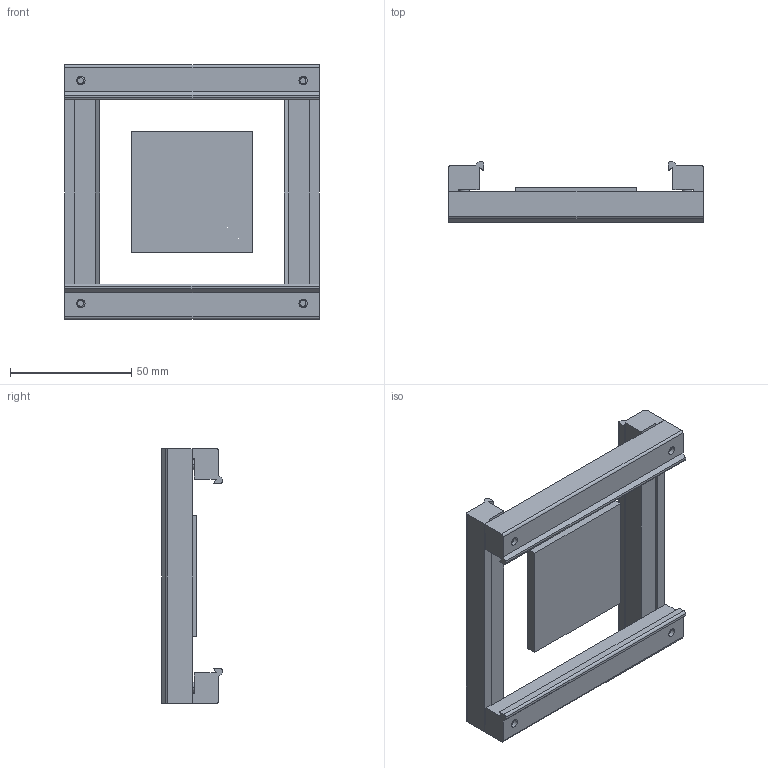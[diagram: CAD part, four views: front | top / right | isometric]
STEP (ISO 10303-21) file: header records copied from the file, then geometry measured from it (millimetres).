
FILE_DESCRIPTION (( 'STEP AP203' ), '1' );
FILE_NAME ('X-Y Verbindung dL80.STEP', '2004-11-26T15:51:09', ( '' ), ( '' ), 'SwSTEP 2.0', 'SolidWorks 2004073', '' );
FILE_SCHEMA (( 'CONFIG_CONTROL_DESIGN' ));
Length unit declared in the file: millimetre
Products named in the file (5): SC-912_M 4 x 16; X-Y Verbindung dL80; Klemmleiste-+-D001997_ _PDB_050633; Klemmleiste-+-D007748_ _PDB_50632; Bestimmplatte_dL_80-+-D019082_ _PDB_050648
Assembly tree (9 placements, depth 2):
  X-Y Verbindung dL80
    Klemmleiste-+-D001997_ _PDB_050633  x2
    Klemmleiste-+-D007748_ _PDB_50632  x2
    Bestimmplatte_dL_80-+-D019082_ _PDB_050648
    SC-912_M 4 x 16  x4
Bounding box: 105 x 25 x 105 mm (x, y, z)
Volume: 66792 mm3; surface area: 31998.1 mm2
Topology: 9 solids, 9 shells, 194 faces, 444 edges, 280 vertices
Faces by surface type: plane 122, cylinder 48, cone 16, torus 8
Entity records: 2809 total; most frequent: DIRECTION 394, CARTESIAN_POINT 372, ORIENTED_EDGE 348, EDGE_CURVE 174, AXIS2_PLACEMENT_3D 134, LINE 126, VECTOR 126, VERTEX_POINT 112
